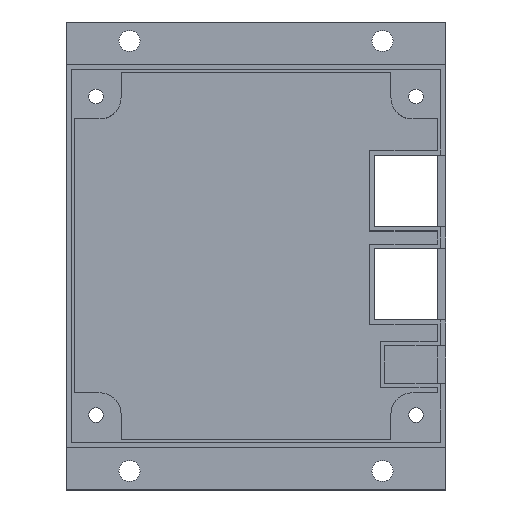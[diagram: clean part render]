
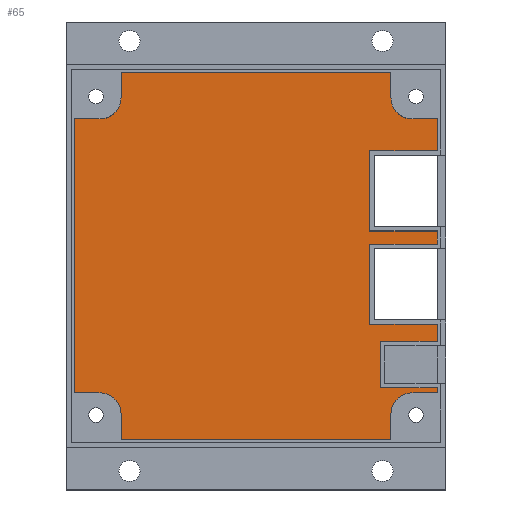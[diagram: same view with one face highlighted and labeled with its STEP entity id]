
A CAD part, top view. The second image highlights one B-rep face of the part: STEP entity #65.
In plain terms, the highlighted planar face has unit normal (0, 0, 1).
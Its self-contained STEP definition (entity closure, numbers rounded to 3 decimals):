
#65=ADVANCED_FACE('',(#574),#576,.T.);
#574=FACE_BOUND('',#575,.T.);
#575=EDGE_LOOP('',(#3470,#3471,#3472,#3473,#3474,#3475,#3476,#3477,#3478,#3479,#3480,
#3481,#3482,#3483,#3484,#3485,#3486,#3487,#3488,#3489,#3490,#3491,#3492,#3493,#3494,
#3495,#3496,#3497));
#576=PLANE('',#577);
#577=AXIS2_PLACEMENT_3D('',#578,#579,#580);
#578=CARTESIAN_POINT('',(0.,0.,2.));
#579=DIRECTION('',(0.,0.,1.));
#580=DIRECTION('',(-1.,0.,0.));
#3470=ORIENTED_EDGE('',*,*,#6406,.F.);
#3471=ORIENTED_EDGE('',*,*,#6407,.F.);
#3472=ORIENTED_EDGE('',*,*,#6408,.F.);
#3473=ORIENTED_EDGE('',*,*,#6409,.T.);
#3474=ORIENTED_EDGE('',*,*,#6410,.T.);
#3475=ORIENTED_EDGE('',*,*,#6411,.T.);
#3476=ORIENTED_EDGE('',*,*,#6412,.T.);
#3477=ORIENTED_EDGE('',*,*,#6413,.T.);
#3478=ORIENTED_EDGE('',*,*,#6414,.T.);
#3479=ORIENTED_EDGE('',*,*,#6415,.T.);
#3480=ORIENTED_EDGE('',*,*,#6416,.T.);
#3481=ORIENTED_EDGE('',*,*,#6325,.T.);
#3482=ORIENTED_EDGE('',*,*,#6405,.T.);
#3483=ORIENTED_EDGE('',*,*,#6417,.T.);
#3484=ORIENTED_EDGE('',*,*,#6418,.T.);
#3485=ORIENTED_EDGE('',*,*,#6419,.T.);
#3486=ORIENTED_EDGE('',*,*,#6420,.T.);
#3487=ORIENTED_EDGE('',*,*,#6421,.T.);
#3488=ORIENTED_EDGE('',*,*,#6422,.T.);
#3489=ORIENTED_EDGE('',*,*,#6423,.T.);
#3490=ORIENTED_EDGE('',*,*,#6424,.F.);
#3491=ORIENTED_EDGE('',*,*,#6425,.F.);
#3492=ORIENTED_EDGE('',*,*,#6426,.F.);
#3493=ORIENTED_EDGE('',*,*,#6427,.T.);
#3494=ORIENTED_EDGE('',*,*,#6428,.F.);
#3495=ORIENTED_EDGE('',*,*,#6429,.F.);
#3496=ORIENTED_EDGE('',*,*,#6430,.F.);
#3497=ORIENTED_EDGE('',*,*,#6431,.T.);
#6325=EDGE_CURVE('',#7505,#7503,#7506,.T.);
#6405=EDGE_CURVE('',#7503,#7655,#7657,.T.);
#6406=EDGE_CURVE('',#7658,#7659,#7660,.T.);
#6407=EDGE_CURVE('',#7661,#7658,#7662,.T.);
#6408=EDGE_CURVE('',#7663,#7661,#7664,.T.);
#6409=EDGE_CURVE('',#7663,#7665,#7666,.T.);
#6410=EDGE_CURVE('',#7665,#7667,#7668,.T.);
#6411=EDGE_CURVE('',#7667,#7669,#7670,.T.);
#6412=EDGE_CURVE('',#7669,#7671,#7672,.T.);
#6413=EDGE_CURVE('',#7671,#7673,#7674,.T.);
#6414=EDGE_CURVE('',#7673,#7675,#7676,.T.);
#6415=EDGE_CURVE('',#7675,#7677,#7678,.T.);
#6416=EDGE_CURVE('',#7677,#7505,#7679,.T.);
#6417=EDGE_CURVE('',#7655,#7680,#7681,.T.);
#6418=EDGE_CURVE('',#7680,#7682,#7683,.T.);
#6419=EDGE_CURVE('',#7682,#7684,#7685,.T.);
#6420=EDGE_CURVE('',#7684,#7686,#7687,.T.);
#6421=EDGE_CURVE('',#7686,#7688,#7689,.T.);
#6422=EDGE_CURVE('',#7688,#7690,#7691,.T.);
#6423=EDGE_CURVE('',#7690,#7692,#7693,.T.);
#6424=EDGE_CURVE('',#7694,#7692,#7695,.T.);
#6425=EDGE_CURVE('',#7696,#7694,#7697,.T.);
#6426=EDGE_CURVE('',#7698,#7696,#7699,.T.);
#6427=EDGE_CURVE('',#7698,#7700,#7701,.T.);
#6428=EDGE_CURVE('',#7702,#7700,#7703,.T.);
#6429=EDGE_CURVE('',#7704,#7702,#7705,.T.);
#6430=EDGE_CURVE('',#7706,#7704,#7707,.T.);
#6431=EDGE_CURVE('',#7706,#7659,#7708,.T.);
#7503=VERTEX_POINT('',#9589);
#7505=VERTEX_POINT('',#9593);
#7506=LINE('',#9594,#9595);
#7655=VERTEX_POINT('',#9913);
#7657=LINE('',#9917,#9918);
#7658=VERTEX_POINT('',#9920);
#7659=VERTEX_POINT('',#9921);
#7660=LINE('',#9922,#9923);
#7661=VERTEX_POINT('',#9925);
#7662=LINE('',#9926,#9927);
#7663=VERTEX_POINT('',#9929);
#7664=LINE('',#9930,#9931);
#7665=VERTEX_POINT('',#9933);
#7666=LINE('',#9934,#9935);
#7667=VERTEX_POINT('',#9937);
#7668=LINE('',#9938,#9939);
#7669=VERTEX_POINT('',#9941);
#7670=CIRCLE('',#9942,5.);
#7671=VERTEX_POINT('',#9946);
#7672=LINE('',#9947,#9948);
#7673=VERTEX_POINT('',#9950);
#7674=LINE('',#9951,#9952);
#7675=VERTEX_POINT('',#9954);
#7676=LINE('',#9955,#9956);
#7677=VERTEX_POINT('',#9958);
#7678=CIRCLE('',#9959,5.);
#7679=LINE('',#9963,#9964);
#7680=VERTEX_POINT('',#9966);
#7681=CIRCLE('',#9967,5.);
#7682=VERTEX_POINT('',#9971);
#7683=LINE('',#9972,#9973);
#7684=VERTEX_POINT('',#9975);
#7685=LINE('',#9976,#9977);
#7686=VERTEX_POINT('',#9979);
#7687=LINE('',#9980,#9981);
#7688=VERTEX_POINT('',#9983);
#7689=CIRCLE('',#9984,5.);
#7690=VERTEX_POINT('',#9988);
#7691=LINE('',#9989,#9990);
#7692=VERTEX_POINT('',#9992);
#7693=LINE('',#9993,#9994);
#7694=VERTEX_POINT('',#9996);
#7695=LINE('',#9997,#9998);
#7696=VERTEX_POINT('',#10000);
#7697=LINE('',#10001,#10002);
#7698=VERTEX_POINT('',#10004);
#7699=LINE('',#10005,#10006);
#7700=VERTEX_POINT('',#10008);
#7701=LINE('',#10009,#10010);
#7702=VERTEX_POINT('',#10012);
#7703=LINE('',#10013,#10014);
#7704=VERTEX_POINT('',#10016);
#7705=LINE('',#10017,#10018);
#7706=VERTEX_POINT('',#10020);
#7707=LINE('',#10021,#10022);
#7708=LINE('',#10024,#10025);
#9589=CARTESIAN_POINT('',(-43.,-32.5,2.));
#9593=CARTESIAN_POINT('',(-43.,32.5,2.));
#9594=CARTESIAN_POINT('',(-43.,32.5,2.));
#9595=VECTOR('',#9596,1.);
#9596=DIRECTION('',(0.,-1.,0.));
#9913=CARTESIAN_POINT('',(-37.,-32.5,2.));
#9917=CARTESIAN_POINT('',(-43.,-32.5,2.));
#9918=VECTOR('',#9919,1.);
#9919=DIRECTION('',(1.,0.,0.));
#9920=CARTESIAN_POINT('',(27.,5.9,2.));
#9921=CARTESIAN_POINT('',(43.,5.9,2.));
#9922=CARTESIAN_POINT('',(27.,5.9,2.));
#9923=VECTOR('',#9924,1.);
#9924=DIRECTION('',(1.,0.,0.));
#9925=CARTESIAN_POINT('',(27.,24.9,2.));
#9926=CARTESIAN_POINT('',(27.,24.9,2.));
#9927=VECTOR('',#9928,1.);
#9928=DIRECTION('',(0.,-1.,0.));
#9929=CARTESIAN_POINT('',(43.,24.9,2.));
#9930=CARTESIAN_POINT('',(43.,24.9,2.));
#9931=VECTOR('',#9932,1.);
#9932=DIRECTION('',(-1.,0.,0.));
#9933=CARTESIAN_POINT('',(43.,32.5,2.));
#9934=CARTESIAN_POINT('',(43.,24.9,2.));
#9935=VECTOR('',#9936,1.);
#9936=DIRECTION('',(0.,1.,0.));
#9937=CARTESIAN_POINT('',(37.,32.5,2.));
#9938=CARTESIAN_POINT('',(43.,32.5,2.));
#9939=VECTOR('',#9940,1.);
#9940=DIRECTION('',(-1.,0.,0.));
#9941=CARTESIAN_POINT('',(32.,37.5,2.));
#9942=AXIS2_PLACEMENT_3D('',#9943,#9944,#9945);
#9943=CARTESIAN_POINT('',(37.,37.5,2.));
#9944=DIRECTION('',(0.,0.,-1.));
#9945=DIRECTION('',(0.,-1.,0.));
#9946=CARTESIAN_POINT('',(32.,43.5,2.));
#9947=CARTESIAN_POINT('',(32.,37.5,2.));
#9948=VECTOR('',#9949,1.);
#9949=DIRECTION('',(0.,1.,0.));
#9950=CARTESIAN_POINT('',(-32.,43.5,2.));
#9951=CARTESIAN_POINT('',(32.,43.5,2.));
#9952=VECTOR('',#9953,1.);
#9953=DIRECTION('',(-1.,0.,0.));
#9954=CARTESIAN_POINT('',(-32.,37.5,2.));
#9955=CARTESIAN_POINT('',(-32.,43.5,2.));
#9956=VECTOR('',#9957,1.);
#9957=DIRECTION('',(0.,-1.,0.));
#9958=CARTESIAN_POINT('',(-37.,32.5,2.));
#9959=AXIS2_PLACEMENT_3D('',#9960,#9961,#9962);
#9960=CARTESIAN_POINT('',(-37.,37.5,2.));
#9961=DIRECTION('',(0.,0.,-1.));
#9962=DIRECTION('',(1.,0.,0.));
#9963=CARTESIAN_POINT('',(-37.,32.5,2.));
#9964=VECTOR('',#9965,1.);
#9965=DIRECTION('',(-1.,0.,0.));
#9966=CARTESIAN_POINT('',(-32.,-37.5,2.));
#9967=AXIS2_PLACEMENT_3D('',#9968,#9969,#9970);
#9968=CARTESIAN_POINT('',(-37.,-37.5,2.));
#9969=DIRECTION('',(0.,0.,-1.));
#9970=DIRECTION('',(0.,1.,0.));
#9971=CARTESIAN_POINT('',(-32.,-43.5,2.));
#9972=CARTESIAN_POINT('',(-32.,-37.5,2.));
#9973=VECTOR('',#9974,1.);
#9974=DIRECTION('',(0.,-1.,0.));
#9975=CARTESIAN_POINT('',(32.,-43.5,2.));
#9976=CARTESIAN_POINT('',(-32.,-43.5,2.));
#9977=VECTOR('',#9978,1.);
#9978=DIRECTION('',(1.,0.,0.));
#9979=CARTESIAN_POINT('',(32.,-37.5,2.));
#9980=CARTESIAN_POINT('',(32.,-43.5,2.));
#9981=VECTOR('',#9982,1.);
#9982=DIRECTION('',(0.,1.,0.));
#9983=CARTESIAN_POINT('',(37.,-32.5,2.));
#9984=AXIS2_PLACEMENT_3D('',#9985,#9986,#9987);
#9985=CARTESIAN_POINT('',(37.,-37.5,2.));
#9986=DIRECTION('',(0.,0.,-1.));
#9987=DIRECTION('',(-1.,0.,0.));
#9988=CARTESIAN_POINT('',(43.,-32.5,2.));
#9989=CARTESIAN_POINT('',(37.,-32.5,2.));
#9990=VECTOR('',#9991,1.);
#9991=DIRECTION('',(1.,0.,0.));
#9992=CARTESIAN_POINT('',(43.,-31.296,2.));
#9993=CARTESIAN_POINT('',(43.,-32.5,2.));
#9994=VECTOR('',#9995,1.);
#9995=DIRECTION('',(0.,1.,0.));
#9996=CARTESIAN_POINT('',(29.5,-31.296,2.));
#9997=CARTESIAN_POINT('',(29.5,-31.296,2.));
#9998=VECTOR('',#9999,1.);
#9999=DIRECTION('',(1.,0.,0.));
#10000=CARTESIAN_POINT('',(29.5,-20.3,2.));
#10001=CARTESIAN_POINT('',(29.5,-20.3,2.));
#10002=VECTOR('',#10003,1.);
#10003=DIRECTION('',(0.,-1.,0.));
#10004=CARTESIAN_POINT('',(43.,-20.3,2.));
#10005=CARTESIAN_POINT('',(43.,-20.3,2.));
#10006=VECTOR('',#10007,1.);
#10007=DIRECTION('',(-1.,0.,0.));
#10008=CARTESIAN_POINT('',(43.,-16.2,2.));
#10009=CARTESIAN_POINT('',(43.,-20.3,2.));
#10010=VECTOR('',#10011,1.);
#10011=DIRECTION('',(0.,1.,0.));
#10012=CARTESIAN_POINT('',(27.,-16.2,2.));
#10013=CARTESIAN_POINT('',(27.,-16.2,2.));
#10014=VECTOR('',#10015,1.);
#10015=DIRECTION('',(1.,0.,0.));
#10016=CARTESIAN_POINT('',(27.,2.8,2.));
#10017=CARTESIAN_POINT('',(27.,2.8,2.));
#10018=VECTOR('',#10019,1.);
#10019=DIRECTION('',(0.,-1.,0.));
#10020=CARTESIAN_POINT('',(43.,2.8,2.));
#10021=CARTESIAN_POINT('',(43.,2.8,2.));
#10022=VECTOR('',#10023,1.);
#10023=DIRECTION('',(-1.,0.,0.));
#10024=CARTESIAN_POINT('',(43.,2.8,2.));
#10025=VECTOR('',#10026,1.);
#10026=DIRECTION('',(0.,1.,0.));
